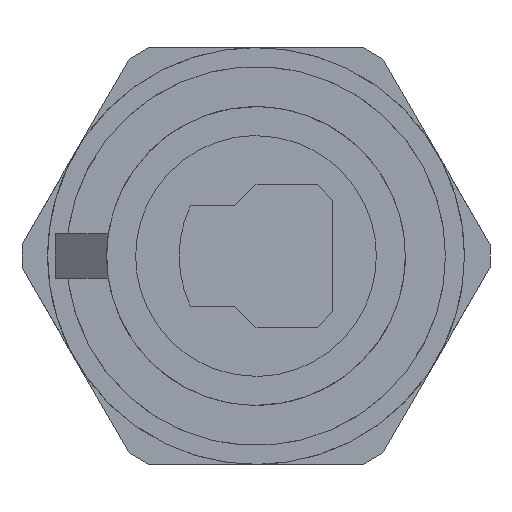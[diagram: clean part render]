
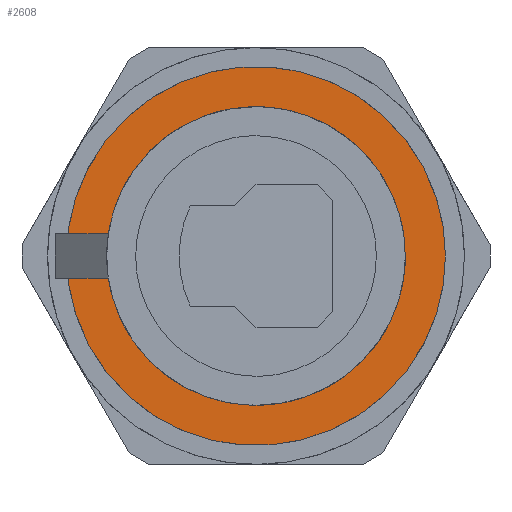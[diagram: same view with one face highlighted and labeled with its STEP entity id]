
A CAD part, left-side view. The second image highlights one B-rep face of the part: STEP entity #2608.
In plain terms, the highlighted free-form (B-spline) face has degree [1, 1] with [2, 2] control points.
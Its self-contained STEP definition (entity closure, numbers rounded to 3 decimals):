
#1898=EDGE_CURVE('',#1899,#1901,#1903,.F.);
#1899=VERTEX_POINT('',#1900);
#1900=CARTESIAN_POINT('',(-1.778,-10.795,0.));
#1901=VERTEX_POINT('',#1902);
#1902=CARTESIAN_POINT('',(-1.778,10.795,0.));
#1903=(BOUNDED_CURVE()B_SPLINE_CURVE(2,(#1904,#1905,#1906,#1907,#1908),.UNSPECIFIED.,.F.,.U.)B_SPLINE_CURVE_WITH_KNOTS((3,2,3),(0.0,1.571,3.142),.UNSPECIFIED.)CURVE()GEOMETRIC_REPRESENTATION_ITEM()RATIONAL_B_SPLINE_CURVE((1.0,0.707,1.0,0.707,1.0))REPRESENTATION_ITEM(''));
#1904=CARTESIAN_POINT('',(-1.778,10.795,0.));
#1905=CARTESIAN_POINT('',(-1.778,10.795,-10.795));
#1906=CARTESIAN_POINT('',(-1.778,0.,-10.795));
#1907=CARTESIAN_POINT('',(-1.778,-10.795,-10.795));
#1908=CARTESIAN_POINT('',(-1.778,-10.795,0.));
#1910=EDGE_CURVE('',#1901,#1899,#1911,.F.);
#1911=(BOUNDED_CURVE()B_SPLINE_CURVE(2,(#1912,#1913,#1914,#1915,#1916),.UNSPECIFIED.,.F.,.U.)B_SPLINE_CURVE_WITH_KNOTS((3,2,3),(3.142,4.712,6.283),.PIECEWISE_BEZIER_KNOTS.)CURVE()GEOMETRIC_REPRESENTATION_ITEM()RATIONAL_B_SPLINE_CURVE((1.0,0.707,1.0,0.707,1.0))REPRESENTATION_ITEM(''));
#1912=CARTESIAN_POINT('',(-1.778,-10.795,0.));
#1913=CARTESIAN_POINT('',(-1.778,-10.795,10.795));
#1914=CARTESIAN_POINT('',(-1.778,0.,10.795));
#1915=CARTESIAN_POINT('',(-1.778,10.795,10.795));
#1916=CARTESIAN_POINT('',(-1.778,10.795,0.));
#2394=EDGE_CURVE('',#2395,#2397,#2399,.F.);
#2395=VERTEX_POINT('',#2396);
#2396=CARTESIAN_POINT('',(-1.778,6.35,0.));
#2397=VERTEX_POINT('',#2398);
#2398=CARTESIAN_POINT('',(-1.778,6.321,0.603));
#2399=(BOUNDED_CURVE()B_SPLINE_CURVE(2,(#2400,#2401,#2402,#2403,#2404,#2405,#2406,#2407,#2408),.UNSPECIFIED.,.F.,.U.)B_SPLINE_CURVE_WITH_KNOTS((3,2,2,2,3),(-3.046,-1.499,0.048,1.595,3.142),.UNSPECIFIED.)CURVE()GEOMETRIC_REPRESENTATION_ITEM()RATIONAL_B_SPLINE_CURVE((1.0,0.715,1.0,0.715,1.0,0.715,1.0,0.715,1.0))REPRESENTATION_ITEM(''));
#2400=CARTESIAN_POINT('',(-1.778,6.321,0.603));
#2401=CARTESIAN_POINT('',(-1.778,5.732,6.776));
#2402=CARTESIAN_POINT('',(-1.778,-0.453,6.334));
#2403=CARTESIAN_POINT('',(-1.778,-6.638,5.892));
#2404=CARTESIAN_POINT('',(-1.778,-6.343,-0.302));
#2405=CARTESIAN_POINT('',(-1.778,-6.048,-6.496));
#2406=CARTESIAN_POINT('',(-1.778,0.151,-6.348));
#2407=CARTESIAN_POINT('',(-1.778,6.35,-6.201));
#2408=CARTESIAN_POINT('',(-1.778,6.35,0.));
#2410=EDGE_CURVE('',#2397,#2395,#2411,.F.);
#2411=(BOUNDED_CURVE()B_SPLINE_CURVE(2,(#2412,#2413,#2414),.UNSPECIFIED.,.F.,.U.)B_SPLINE_CURVE_WITH_KNOTS((3,3),(3.142,3.237),.PIECEWISE_BEZIER_KNOTS.)CURVE()GEOMETRIC_REPRESENTATION_ITEM()RATIONAL_B_SPLINE_CURVE((1.0,0.999,1.0))REPRESENTATION_ITEM(''));
#2412=CARTESIAN_POINT('',(-1.778,6.35,0.));
#2413=CARTESIAN_POINT('',(-1.778,6.35,0.302));
#2414=CARTESIAN_POINT('',(-1.778,6.321,0.603));
#2608=ADVANCED_FACE('',(#2609,#2613),#2617,.T.);
#2609=FACE_BOUND('',#2610,.T.);
#2610=EDGE_LOOP('',(#2611,#2612));
#2611=ORIENTED_EDGE('',*,*,#1898,.F.);
#2612=ORIENTED_EDGE('',*,*,#1910,.F.);
#2613=FACE_BOUND('',#2614,.T.);
#2614=EDGE_LOOP('',(#2615,#2616));
#2615=ORIENTED_EDGE('',*,*,#2394,.F.);
#2616=ORIENTED_EDGE('',*,*,#2410,.F.);
#2617=B_SPLINE_SURFACE_WITH_KNOTS('',1,1,((#2618,#2619),(#2620,#2621)),.UNSPECIFIED.,.F.,.F.,.U.,(2,2),(2,2),(-0.425,0.425),(-0.425,0.425),.PIECEWISE_BEZIER_KNOTS.);
#2618=CARTESIAN_POINT('',(-1.778,-10.795,-10.795));
#2619=CARTESIAN_POINT('',(-1.778,10.795,-10.795));
#2620=CARTESIAN_POINT('',(-1.778,-10.795,10.795));
#2621=CARTESIAN_POINT('',(-1.778,10.795,10.795));
